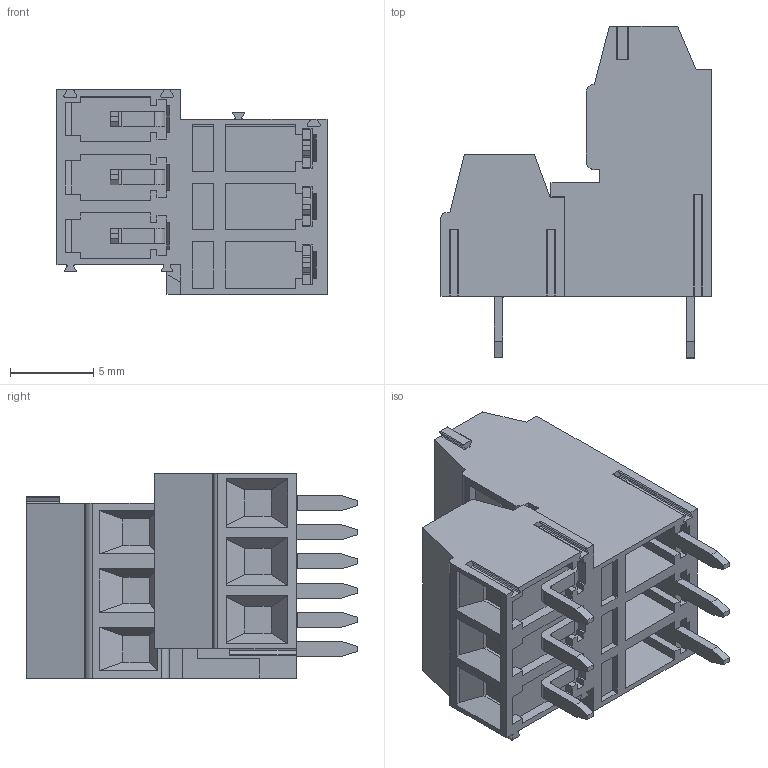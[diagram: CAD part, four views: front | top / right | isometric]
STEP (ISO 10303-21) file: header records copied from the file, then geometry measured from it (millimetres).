
FILE_DESCRIPTION((''),'2;1');
FILE_NAME('3','2019-05-07T',('zhenbing.lai'),(''),'CREO PARAMETRIC BY PTC INC, 2016260','CREO PARAMETRIC BY PTC INC, 2016260','');
FILE_SCHEMA(('CONFIG_CONTROL_DESIGN'));
Length unit declared in the file: millimetre
Products named in the file (1): 3
Bounding box: 16.2 x 19.9 x 12.25 mm (x, y, z)
Volume: 1518.9 mm3; surface area: 2040.7 mm2
Topology: 1 solids, 1 shells, 579 faces, 1618 edges, 1068 vertices
Faces by surface type: plane 421, cylinder 111, torus 27, cone 20
Entity records: 19342 total; most frequent: CARTESIAN_POINT 4232, ORIENTED_EDGE 3236, DIRECTION 3052, EDGE_CURVE 1618, VECTOR 1152, LINE 1152, VERTEX_POINT 1068, AXIS2_PLACEMENT_3D 950
